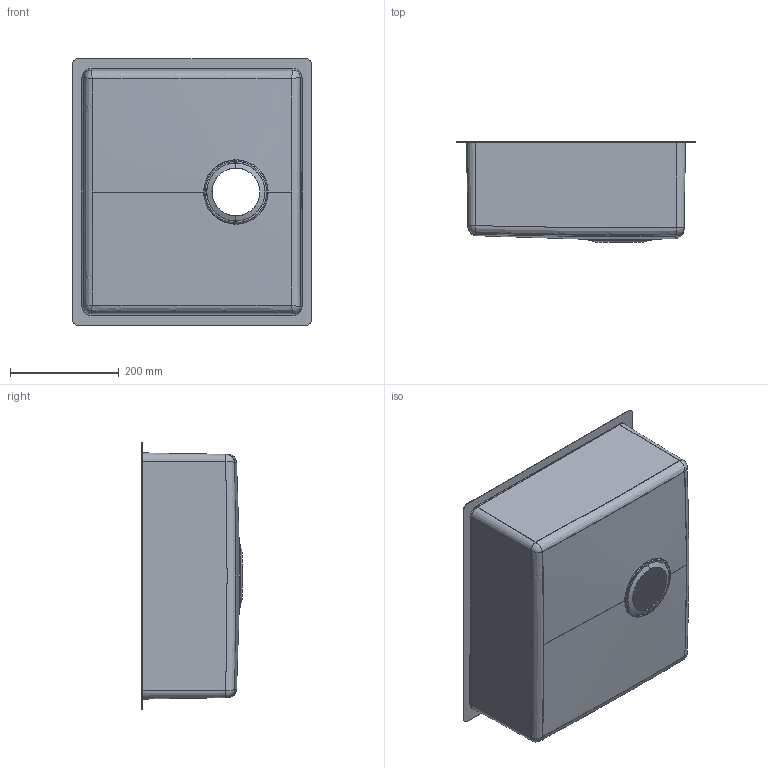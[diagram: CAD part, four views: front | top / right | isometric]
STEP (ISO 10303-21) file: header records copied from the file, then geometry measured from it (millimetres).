
FILE_DESCRIPTION (( 'STEP AP214' ), '1' );
FILE_NAME ('Morath Becken MR15-45 (SER 45) mit Rand.STEP', '2020-12-11T15:57:46', ( '' ), ( '' ), 'SwSTEP 2.0', 'SolidWorks 2020', '' );
FILE_SCHEMA (( 'AUTOMOTIVE_DESIGN' ));
Length unit declared in the file: millimetre
Products named in the file (1): Morath Becken MR15-45 (SER 45) mit Rand
Bounding box: 440 x 185 x 490 mm (x, y, z)
Volume: 482371.9 mm3; surface area: 963699.5 mm2
Topology: 1 solids, 1 shells, 127 faces, 302 edges, 174 vertices
Faces by surface type: torus 36, cylinder 36, plane 23, cone 16, bspline 16
Entity records: 12749 total; most frequent: CARTESIAN_POINT 9857, DIRECTION 624, ORIENTED_EDGE 588, EDGE_CURVE 294, AXIS2_PLACEMENT_3D 262, VERTEX_POINT 174, CIRCLE 150, EDGE_LOOP 136
